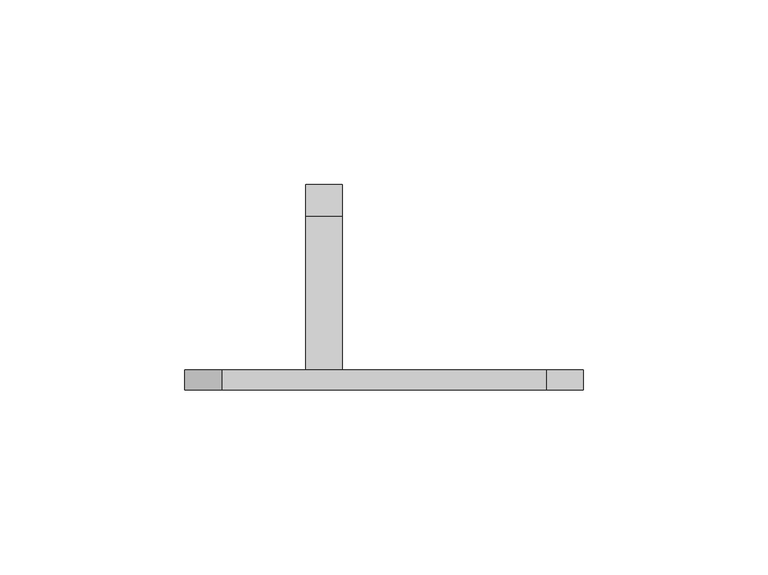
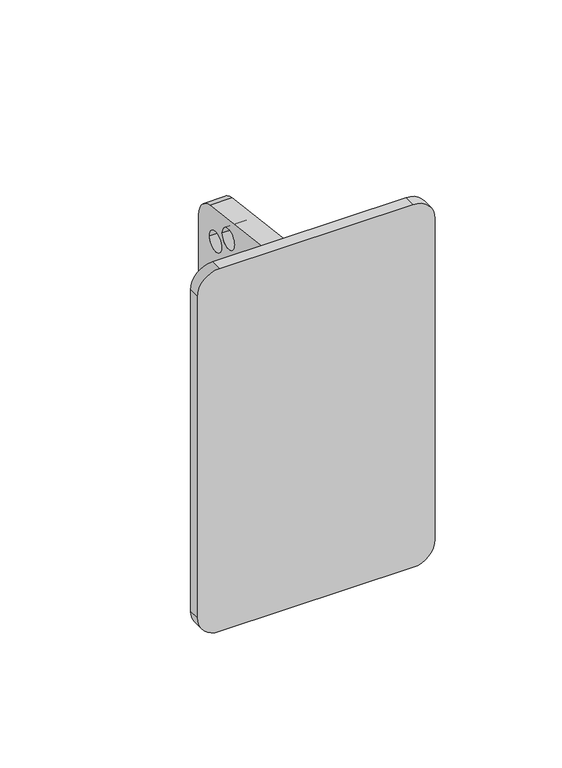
"""IFC4 building model written with IfcOpenShell, lengths in millimetres: proxy geometry, d&b SL-Series XSLi : XSLi12."""

from ifc_helpers import new_model, si_unit, point, frame, frame_2d, origin, place, context, project, spatial, polyline, circle_curve, trimmed, segment, composite_curve, outline, extrude, source, transform, mapped, element, save


def communication_devices_14464fff(model_context):
    return source(origin(), model_context, "Body", "SweptSolid", [
        extrude(outline(composite_curve([segment(polyline([(87.3755973, 93.0715178), (128.8875869, 87.7905262)]), True, "CONTINUOUS"), segment(trimmed(circle_curve(frame_2d((127.6255973, 77.8704767)), 10.0), [point((128.8875869, 87.7905262))], [point((137.6255973, 77.8704767))], False, "CARTESIAN"), True, "CONTINUOUS"), segment(polyline([(137.6255973, 77.8704767), (137.6255973, -66.0341249)]), True, "CONTINUOUS"), segment(trimmed(circle_curve(frame_2d((127.6255973, -66.0341249)), 10.0), [point((137.6255973, -66.0341249))], [point((132.8764293, -74.5446339))], False, "CARTESIAN"), True, "CONTINUOUS"), segment(trimmed(circle_curve(frame_2d((115.0236005, -45.6089034)), 34.0), [point((132.8764293, -74.5446339))], [point((125.2407991, -78.0374225))], False, "CARTESIAN"), True, "CONTINUOUS"), segment(trimmed(circle_curve(frame_2d((101.2003317, -1.7350246)), 80.0), [point((125.2407991, -78.0374225))], [point((87.3755973, -80.5314504))], False, "CARTESIAN"), True, "CONTINUOUS"), segment(polyline([(87.3755973, -80.5314504), (87.3755973, 93.0715178)]), True, "CONTINUOUS")], self_intersect=False), holes=[composite_curve([segment(trimmed(circle_curve(frame_2d((114.3755973, 80.3658751)), 4.75), [point((109.6255973, 80.3658751))], [point((119.1255973, 80.3658751))], True, "CARTESIAN"), True, "CONTINUOUS"), segment(trimmed(circle_curve(frame_2d((114.3755973, 80.3658751)), 4.75), [point((119.1255973, 80.3658751))], [point((109.6255973, 80.3658751))], True, "CARTESIAN"), True, "CONTINUOUS")], self_intersect=False), composite_curve([segment(trimmed(circle_curve(frame_2d((124.4755973, 72.9758751)), 4.75), [point((119.7255973, 72.9758751))], [point((129.2255973, 72.9758751))], True, "CARTESIAN"), True, "CONTINUOUS"), segment(trimmed(circle_curve(frame_2d((124.4755973, 72.9758751)), 4.75), [point((129.2255973, 72.9758751))], [point((119.7255973, 72.9758751))], True, "CARTESIAN"), True, "CONTINUOUS")], self_intersect=False), composite_curve([segment(trimmed(circle_curve(frame_2d((114.3755973, 64.3358751)), 4.75), [point((109.6255973, 64.3358751))], [point((119.1255973, 64.3358751))], True, "CARTESIAN"), True, "CONTINUOUS"), segment(trimmed(circle_curve(frame_2d((114.3755973, 64.3358751)), 4.75), [point((119.1255973, 64.3358751))], [point((109.6255973, 64.3358751))], True, "CARTESIAN"), True, "CONTINUOUS")], self_intersect=False), composite_curve([segment(trimmed(circle_curve(frame_2d((99.3755973, 55.8658751)), 4.75), [point((94.6255973, 55.8658751))], [point((104.1255973, 55.8658751))], True, "CARTESIAN"), True, "CONTINUOUS"), segment(trimmed(circle_curve(frame_2d((99.3755973, 55.8658751)), 4.75), [point((104.1255973, 55.8658751))], [point((94.6255973, 55.8658751))], True, "CARTESIAN"), True, "CONTINUOUS")], self_intersect=False), composite_curve([segment(trimmed(circle_curve(frame_2d((125.2755973, 56.9358751)), 4.75), [point((120.5255973, 56.9358751))], [point((130.0255973, 56.9358751))], True, "CARTESIAN"), True, "CONTINUOUS"), segment(trimmed(circle_curve(frame_2d((125.2755973, 56.9358751)), 4.75), [point((130.0255973, 56.9358751))], [point((120.5255973, 56.9358751))], True, "CARTESIAN"), True, "CONTINUOUS")], self_intersect=False), composite_curve([segment(trimmed(circle_curve(frame_2d((114.3755973, 48.2858751)), 4.75), [point((109.6255973, 48.2858751))], [point((119.1255973, 48.2858751))], True, "CARTESIAN"), True, "CONTINUOUS"), segment(trimmed(circle_curve(frame_2d((114.3755973, 48.2858751)), 4.75), [point((119.1255973, 48.2858751))], [point((109.6255973, 48.2858751))], True, "CARTESIAN"), True, "CONTINUOUS")], self_intersect=False), composite_curve([segment(trimmed(circle_curve(frame_2d((102.7855973, 42.7858751)), 4.75), [point((98.0355973, 42.7858751))], [point((107.5355973, 42.7858751))], True, "CARTESIAN"), True, "CONTINUOUS"), segment(trimmed(circle_curve(frame_2d((102.7855973, 42.7858751)), 4.75), [point((107.5355973, 42.7858751))], [point((98.0355973, 42.7858751))], True, "CARTESIAN"), True, "CONTINUOUS")], self_intersect=False), composite_curve([segment(trimmed(circle_curve(frame_2d((103.2255973, 9.7958751)), 4.75), [point((98.4755973, 9.7958751))], [point((107.9755973, 9.7958751))], True, "CARTESIAN"), True, "CONTINUOUS"), segment(trimmed(circle_curve(frame_2d((103.2255973, 9.7958751)), 4.75), [point((107.9755973, 9.7958751))], [point((98.4755973, 9.7958751))], True, "CARTESIAN"), True, "CONTINUOUS")], self_intersect=False), composite_curve([segment(trimmed(circle_curve(frame_2d((102.9655973, 26.4158751)), 4.75), [point((98.2155973, 26.4158751))], [point((107.7155973, 26.4158751))], True, "CARTESIAN"), True, "CONTINUOUS"), segment(trimmed(circle_curve(frame_2d((102.9655973, 26.4158751)), 4.75), [point((107.7155973, 26.4158751))], [point((98.2155973, 26.4158751))], True, "CARTESIAN"), True, "CONTINUOUS")], self_intersect=False), composite_curve([segment(trimmed(circle_curve(frame_2d((114.3755973, 32.2258751)), 4.75), [point((109.6255973, 32.2258751))], [point((119.1255973, 32.2258751))], True, "CARTESIAN"), True, "CONTINUOUS"), segment(trimmed(circle_curve(frame_2d((114.3755973, 32.2258751)), 4.75), [point((119.1255973, 32.2258751))], [point((109.6255973, 32.2258751))], True, "CARTESIAN"), True, "CONTINUOUS")], self_intersect=False), composite_curve([segment(trimmed(circle_curve(frame_2d((125.6755973, 40.8658751)), 4.75), [point((120.9255973, 40.8658751))], [point((130.4255973, 40.8658751))], True, "CARTESIAN"), True, "CONTINUOUS"), segment(trimmed(circle_curve(frame_2d((125.6755973, 40.8658751)), 4.75), [point((130.4255973, 40.8658751))], [point((120.9255973, 40.8658751))], True, "CARTESIAN"), True, "CONTINUOUS")], self_intersect=False), composite_curve([segment(trimmed(circle_curve(frame_2d((126.0755973, 24.8458751)), 4.75), [point((121.3255973, 24.8458751))], [point((130.8255973, 24.8458751))], True, "CARTESIAN"), True, "CONTINUOUS"), segment(trimmed(circle_curve(frame_2d((126.0755973, 24.8458751)), 4.75), [point((130.8255973, 24.8458751))], [point((121.3255973, 24.8458751))], True, "CARTESIAN"), True, "CONTINUOUS")], self_intersect=False), composite_curve([segment(trimmed(circle_curve(frame_2d((114.3755973, 16.1758751)), 4.75), [point((109.6255973, 16.1758751))], [point((119.1255973, 16.1758751))], True, "CARTESIAN"), True, "CONTINUOUS"), segment(trimmed(circle_curve(frame_2d((114.3755973, 16.1758751)), 4.75), [point((119.1255973, 16.1758751))], [point((109.6255973, 16.1758751))], True, "CARTESIAN"), True, "CONTINUOUS")], self_intersect=False), composite_curve([segment(trimmed(circle_curve(frame_2d((126.5755973, 8.9058751)), 4.75), [point((121.8255973, 8.9058751))], [point((131.3255973, 8.9058751))], True, "CARTESIAN"), True, "CONTINUOUS"), segment(trimmed(circle_curve(frame_2d((126.5755973, 8.9058751)), 4.75), [point((131.3255973, 8.9058751))], [point((121.8255973, 8.9058751))], True, "CARTESIAN"), True, "CONTINUOUS")], self_intersect=False), composite_curve([segment(trimmed(circle_curve(frame_2d((114.3755973, 0.1458751)), 4.75), [point((109.6255973, 0.1458751))], [point((119.1255973, 0.1458751))], True, "CARTESIAN"), True, "CONTINUOUS"), segment(trimmed(circle_curve(frame_2d((114.3755973, 0.1458751)), 4.75), [point((119.1255973, 0.1458751))], [point((109.6255973, 0.1458751))], True, "CARTESIAN"), True, "CONTINUOUS")], self_intersect=False), composite_curve([segment(trimmed(circle_curve(frame_2d((103.4255973, -6.6241249)), 4.75), [point((98.6755973, -6.6241249))], [point((108.1755973, -6.6241249))], True, "CARTESIAN"), True, "CONTINUOUS"), segment(trimmed(circle_curve(frame_2d((103.4255973, -6.6241249)), 4.75), [point((108.1755973, -6.6241249))], [point((98.6755973, -6.6241249))], True, "CARTESIAN"), True, "CONTINUOUS")], self_intersect=False), composite_curve([segment(trimmed(circle_curve(frame_2d((127.3755973, -6.8941249)), 4.75), [point((122.6255973, -6.8941249))], [point((132.1255973, -6.8941249))], True, "CARTESIAN"), True, "CONTINUOUS"), segment(trimmed(circle_curve(frame_2d((127.3755973, -6.8941249)), 4.75), [point((132.1255973, -6.8941249))], [point((122.6255973, -6.8941249))], True, "CARTESIAN"), True, "CONTINUOUS")], self_intersect=False), composite_curve([segment(trimmed(circle_curve(frame_2d((114.3755973, -15.8041249)), 4.75), [point((109.6255973, -15.8041249))], [point((119.1255973, -15.8041249))], True, "CARTESIAN"), True, "CONTINUOUS"), segment(trimmed(circle_curve(frame_2d((114.3755973, -15.8041249)), 4.75), [point((119.1255973, -15.8041249))], [point((109.6255973, -15.8041249))], True, "CARTESIAN"), True, "CONTINUOUS")], self_intersect=False), composite_curve([segment(trimmed(circle_curve(frame_2d((103.5755973, -22.8841249)), 4.75), [point((98.8255973, -22.8841249))], [point((108.3255973, -22.8841249))], True, "CARTESIAN"), True, "CONTINUOUS"), segment(trimmed(circle_curve(frame_2d((103.5755973, -22.8841249)), 4.75), [point((108.3255973, -22.8841249))], [point((98.8255973, -22.8841249))], True, "CARTESIAN"), True, "CONTINUOUS")], self_intersect=False), composite_curve([segment(trimmed(circle_curve(frame_2d((128.3755973, -22.5141249)), 4.75), [point((123.6255973, -22.5141249))], [point((133.1255973, -22.5141249))], True, "CARTESIAN"), True, "CONTINUOUS"), segment(trimmed(circle_curve(frame_2d((128.3755973, -22.5141249)), 4.75), [point((133.1255973, -22.5141249))], [point((123.6255973, -22.5141249))], True, "CARTESIAN"), True, "CONTINUOUS")], self_intersect=False), composite_curve([segment(trimmed(circle_curve(frame_2d((129.2755973, -39.1341249)), 4.75), [point((124.5255973, -39.1341249))], [point((134.0255973, -39.1341249))], True, "CARTESIAN"), True, "CONTINUOUS"), segment(trimmed(circle_curve(frame_2d((129.2755973, -39.1341249)), 4.75), [point((134.0255973, -39.1341249))], [point((124.5255973, -39.1341249))], True, "CARTESIAN"), True, "CONTINUOUS")], self_intersect=False), composite_curve([segment(trimmed(circle_curve(frame_2d((114.3755973, -31.6841249)), 4.75), [point((109.6255973, -31.6841249))], [point((119.1255973, -31.6841249))], True, "CARTESIAN"), True, "CONTINUOUS"), segment(trimmed(circle_curve(frame_2d((114.3755973, -31.6841249)), 4.75), [point((119.1255973, -31.6841249))], [point((109.6255973, -31.6841249))], True, "CARTESIAN"), True, "CONTINUOUS")], self_intersect=False), composite_curve([segment(trimmed(circle_curve(frame_2d((103.5755973, -38.9941249)), 4.75), [point((98.8255973, -38.9941249))], [point((108.3255973, -38.9941249))], True, "CARTESIAN"), True, "CONTINUOUS"), segment(trimmed(circle_curve(frame_2d((103.5755973, -38.9941249)), 4.75), [point((108.3255973, -38.9941249))], [point((98.8255973, -38.9941249))], True, "CARTESIAN"), True, "CONTINUOUS")], self_intersect=False), composite_curve([segment(trimmed(circle_curve(frame_2d((114.3755973, -47.5341249)), 4.75), [point((109.6255973, -47.5341249))], [point((119.1255973, -47.5341249))], True, "CARTESIAN"), True, "CONTINUOUS"), segment(trimmed(circle_curve(frame_2d((114.3755973, -47.5341249)), 4.75), [point((119.1255973, -47.5341249))], [point((109.6255973, -47.5341249))], True, "CARTESIAN"), True, "CONTINUOUS")], self_intersect=False), composite_curve([segment(trimmed(circle_curve(frame_2d((103.4755973, -54.1341249)), 4.75), [point((98.7255973, -54.1341249))], [point((108.2255973, -54.1341249))], True, "CARTESIAN"), True, "CONTINUOUS"), segment(trimmed(circle_curve(frame_2d((103.4755973, -54.1341249)), 4.75), [point((108.2255973, -54.1341249))], [point((98.7255973, -54.1341249))], True, "CARTESIAN"), True, "CONTINUOUS")], self_intersect=False), composite_curve([segment(trimmed(circle_curve(frame_2d((110.3755973, -71.4841249)), 5.2), [point((105.1755973, -71.4841249))], [point((115.5755973, -71.4841249))], True, "CARTESIAN"), True, "CONTINUOUS"), segment(trimmed(circle_curve(frame_2d((110.3755973, -71.4841249)), 5.2), [point((115.5755973, -71.4841249))], [point((105.1755973, -71.4841249))], True, "CARTESIAN"), True, "CONTINUOUS")], self_intersect=False)]), frame((478.75, 0.0, 0.0), z_axis=(1.0, 0.0, 0.0), x_axis=(0.0, 1.0, 0.0)), (0.0, 0.0, 1.0), 10.0),
        extrude(outline(composite_curve([segment(trimmed(circle_curve(frame_2d((-70.6394088, 456.0)), 10.0), [point((-70.6394088, 446.0))], [point((-80.6394088, 456.0))], False, "CARTESIAN"), True, "CONTINUOUS"), segment(polyline([(-80.6394088, 456.0), (-80.6394088, 544.0)]), True, "CONTINUOUS"), segment(trimmed(circle_curve(frame_2d((-70.6394088, 544.0)), 10.0), [point((-80.6394088, 544.0))], [point((-70.6394088, 554.0))], False, "CARTESIAN"), True, "CONTINUOUS"), segment(polyline([(-70.6394088, 554.0), (83.7712061, 554.0)]), True, "CONTINUOUS"), segment(trimmed(circle_curve(frame_2d((83.7712061, 544.0)), 10.0), [point((83.7712061, 554.0))], [point((93.7712061, 544.0))], False, "CARTESIAN"), True, "CONTINUOUS"), segment(polyline([(93.7712061, 544.0), (93.7712061, 456.0)]), True, "CONTINUOUS"), segment(trimmed(circle_curve(frame_2d((83.7712061, 456.0)), 10.0), [point((93.7712061, 456.0))], [point((83.7712061, 446.0))], False, "CARTESIAN"), True, "CONTINUOUS"), segment(polyline([(83.7712061, 446.0), (-70.6394088, 446.0)]), True, "CONTINUOUS")], self_intersect=False)), frame((0.0, 81.8755973, 0.0), z_axis=(0.0, 1.0, 0.0), x_axis=(0.0, 0.0, 1.0)), (0.0, 0.0, 1.0), 5.5),
    ])


if __name__ == "__main__":
    model = new_model("IFC4")
    model_context = context("Model", 3, world=origin())
    ifc_project = project(units=[si_unit("LENGTHUNIT", "METRE", prefix="MILLI")], contexts=[model_context])
    site = spatial("IfcSite", under=ifc_project)
    building = spatial("IfcBuilding", under=site)
    placement = place(None, origin())
    communication_devices_shape = communication_devices_14464fff(model_context)
    element("IfcBuildingElementProxy", 1, Name="d&b SL-Series XSLi : XSLi12", ObjectType="d&b SL-Series XSLi : XSLi12", at=placement, inside=building, context=model_context, shape_type="MappedRepresentation", body=[
        mapped(communication_devices_shape, transform((0.0, 0.0, 0.0), x_axis=(1.0, 0.0, 0.0), y_axis=(0.0, 1.0, 0.0), z_axis=(0.0, 0.0, 1.0))),
    ])
    save(model, "model.ifc")
